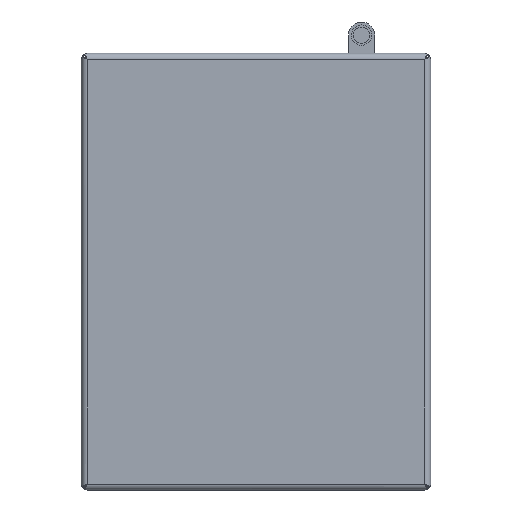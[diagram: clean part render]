
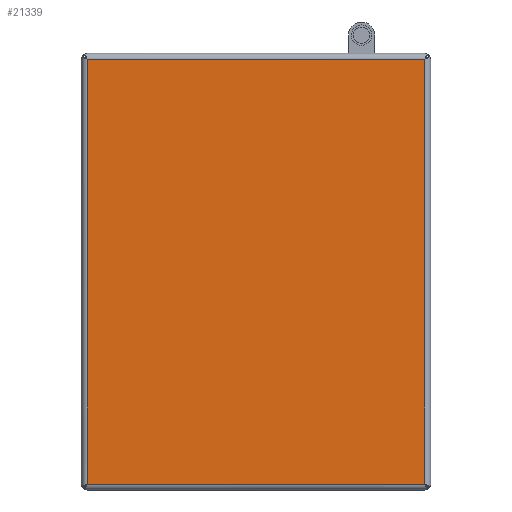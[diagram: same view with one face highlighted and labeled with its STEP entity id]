
A CAD part, front view. The second image highlights one B-rep face of the part: STEP entity #21339.
In plain terms, the highlighted planar face has unit normal (0, -1, 0).
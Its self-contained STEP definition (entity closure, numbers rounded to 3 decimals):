
#4752=DIRECTION('',(0.,0.,1.));
#4753=VECTOR('',#4752,291.9);
#4754=CARTESIAN_POINT('',(115.95,-55.2,-145.95));
#4755=LINE('',#4754,#4753);
#4781=DIRECTION('',(-1.,0.,0.));
#4782=VECTOR('',#4781,231.9);
#4783=CARTESIAN_POINT('',(115.95,-55.2,145.95));
#4784=LINE('',#4783,#4782);
#4816=CARTESIAN_POINT('',(-115.95,-55.2,-145.95));
#4818=DIRECTION('',(1.,0.,0.));
#4819=VECTOR('',#4818,231.9);
#4820=CARTESIAN_POINT('',(-115.95,-55.2,-145.95));
#4821=LINE('',#4820,#4819);
#4822=CARTESIAN_POINT('',(115.95,-55.2,-145.95));
#5016=DIRECTION('',(0.,0.,-1.));
#5017=VECTOR('',#5016,291.9);
#5018=CARTESIAN_POINT('',(-115.95,-55.2,145.95));
#5019=LINE('',#5018,#5017);
#11058=VERTEX_POINT('',#4816);
#11062=VERTEX_POINT('',#4822);
#11063=CARTESIAN_POINT('',(115.95,-55.2,145.95));
#11064=CARTESIAN_POINT('',(-115.95,-55.2,145.95));
#11065=VERTEX_POINT('',#11063);
#11066=VERTEX_POINT('',#11064);
#21325=CARTESIAN_POINT('',(0.,-55.2,0.));
#21326=DIRECTION('',(0.,1.,0.));
#21327=DIRECTION('',(0.,0.,1.));
#21328=AXIS2_PLACEMENT_3D('',#21325,#21326,#21327);
#21329=PLANE('',#21328);
#21331=ORIENTED_EDGE('',*,*,#21330,.F.);
#21332=ORIENTED_EDGE('',*,*,#21293,.F.);
#21334=ORIENTED_EDGE('',*,*,#21333,.F.);
#21336=ORIENTED_EDGE('',*,*,#21335,.F.);
#21337=EDGE_LOOP('',(#21331,#21332,#21334,#21336));
#21338=FACE_OUTER_BOUND('',#21337,.F.);
#21339=ADVANCED_FACE('',(#21338),#21329,.F.);
#21293=EDGE_CURVE('',#11062,#11065,#4755,.T.);
#21330=EDGE_CURVE('',#11065,#11066,#4784,.T.);
#21333=EDGE_CURVE('',#11058,#11062,#4821,.T.);
#21335=EDGE_CURVE('',#11066,#11058,#5019,.T.);
